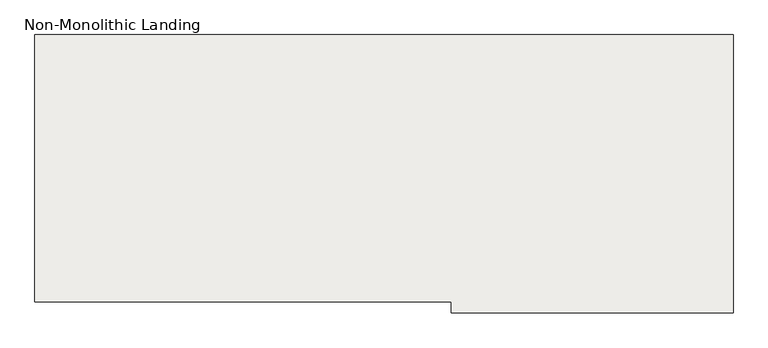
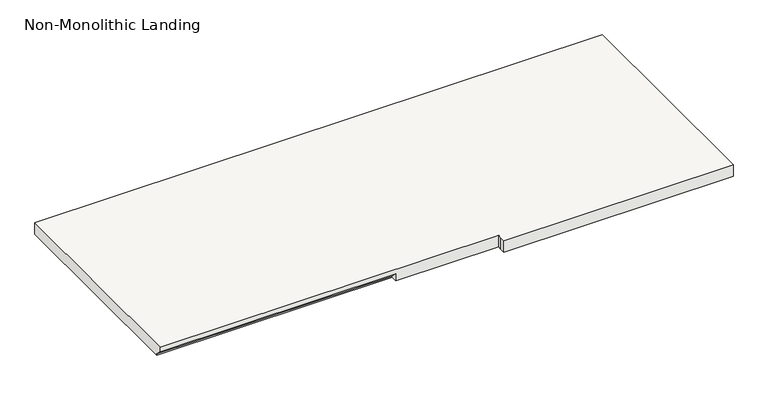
"""IFC4 building model written with IfcOpenShell, lengths in millimetres: slab geometry, Non-Monolithic Landing."""

from ifc_helpers import new_model, si_unit, origin, place, context, project, spatial, faceted_brep, source, transform, mapped, element, save


def non_monolithic_landing_1753bc63(model_context):
    return source(origin(), model_context, "Body", "Brep", [
        faceted_brep([(-4164.1663287, 3559.8563085, 686.8026316), (-4164.1663287, 3585.2563085, 661.4026316), (-3173.5663287, 3585.2563085, 661.4026316), (-3173.5663287, 3559.8563085, 686.8026316), (-2739.7571781, 3559.8563085, 705.8526316), (-2739.7571781, 3546.6563085, 705.8526316), (-2739.7571781, 3521.2563085, 705.8526316), (-1774.5571781, 3521.2563085, 705.8526316), (-1774.5571781, 3546.6563085, 705.8526316), (-1774.5571781, 4474.2563085, 705.8526316), (-4164.1663287, 4474.2563085, 705.8526316), (-4164.1663287, 3559.8563085, 705.8526316), (-3173.5663287, 3585.2563085, 655.0526316), (-4164.1663287, 3585.2563085, 655.0526316), (-4164.1663287, 4474.2563085, 655.0526316), (-1774.5571781, 4474.2563085, 655.0526316), (-1774.5571781, 3546.6563085, 655.0526316), (-1774.5571781, 3521.2563085, 655.0526316), (-2739.7571781, 3521.2563085, 655.0526316), (-2739.7571781, 3546.6563085, 655.0526316), (-2739.7571781, 3559.8563085, 655.0526316), (-3173.5663287, 3559.8563085, 655.0526316)], [[[0, 1, 2, 3]], [[4, 5, 6, 7, 8, 9, 10, 11]], [[12, 13, 14, 15, 16, 17, 18, 19, 20, 21]], [[13, 12, 2, 1]], [[12, 21, 3, 2]], [[4, 11, 0, 3, 21, 20]], [[5, 4, 20, 19]], [[6, 5, 19, 18]], [[7, 6, 18, 17]], [[8, 7, 17, 16]], [[9, 8, 16, 15]], [[10, 9, 15, 14]], [[11, 10, 14, 13, 1, 0]]]),
    ])


if __name__ == "__main__":
    model = new_model("IFC4")
    model_context = context("Model", 3, world=origin())
    ifc_project = project(units=[si_unit("LENGTHUNIT", "METRE", prefix="MILLI")], contexts=[model_context])
    site = spatial("IfcSite", under=ifc_project)
    building = spatial("IfcBuilding", under=site)
    placement = place(None, origin())
    non_monolithic_landing_shape = non_monolithic_landing_1753bc63(model_context)
    element("IfcSlab", 1, ObjectType="Non-Monolithic Landing", at=placement, inside=building, context=model_context, shape_type="MappedRepresentation", body=[
        mapped(non_monolithic_landing_shape, transform((0.0, 0.0, 0.0), x_axis=(1.0, 0.0, 0.0), y_axis=(0.0, 1.0, 0.0), z_axis=(0.0, 0.0, 1.0))),
    ])
    save(model, "model.ifc")
